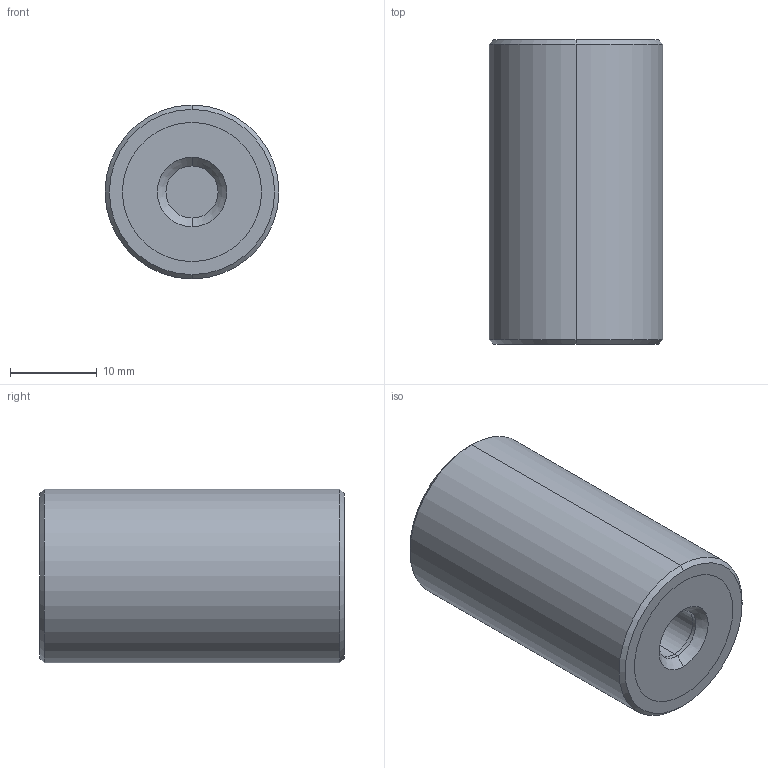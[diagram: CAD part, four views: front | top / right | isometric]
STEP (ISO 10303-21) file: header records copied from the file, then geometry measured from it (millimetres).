
FILE_DESCRIPTION (( 'STEP AP203' ), '1' );
FILE_NAME ('61080.W0204.step', '2018-07-16T20:42:55', ( '' ), ( '' ), 'SwSTEP 2.0', 'SolidWorks 2017', '' );
FILE_SCHEMA (( 'CONFIG_CONTROL_DESIGN' ));
Length unit declared in the file: millimetre
Products named in the file (4): Part1_61080.W0204; 61080.W0204; Part3_61080.W0204; Part2_61080.W0204
Assembly tree (3 placements, depth 2):
  61080.W0204
    Part1_61080.W0204
    Part2_61080.W0204
    Part3_61080.W0204
Bounding box: 20 x 35 x 20 mm (x, y, z)
Volume: 10619.9 mm3; surface area: 3989.4 mm2
Topology: 3 solids, 3 shells, 36 faces, 70 edges, 44 vertices
Faces by surface type: cylinder 18, plane 10, cone 8
Entity records: 1356 total; most frequent: DIRECTION 198, CARTESIAN_POINT 156, ORIENTED_EDGE 140, AXIS2_PLACEMENT_3D 86, EDGE_CURVE 70, EDGE_LOOP 44, CIRCLE 44, VERTEX_POINT 44
